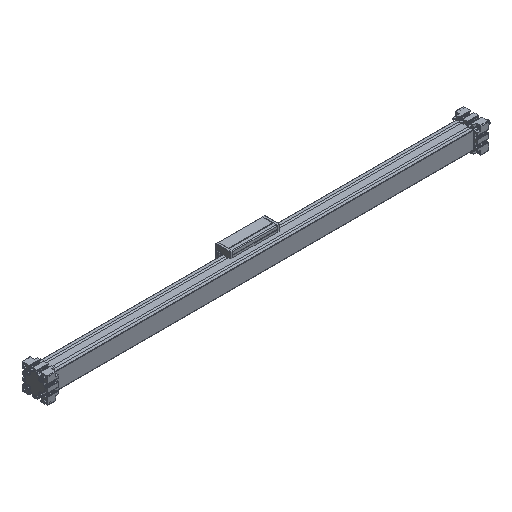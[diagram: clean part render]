
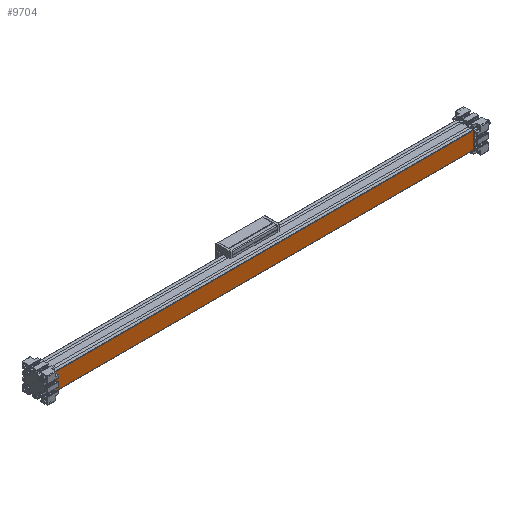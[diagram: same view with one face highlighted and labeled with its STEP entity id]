
A CAD part, isometric view. The second image highlights one B-rep face of the part: STEP entity #9704.
In plain terms, the highlighted planar face has unit normal (0, -1, 0).
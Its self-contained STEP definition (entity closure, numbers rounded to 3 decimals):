
#773 = LINE ( 'NONE', #8340, #12802 ) ;
#953 = CARTESIAN_POINT ( 'NONE',  ( 948., -20., -19. ) ) ;
#1021 = VERTEX_POINT ( 'NONE', #20662 ) ;
#2493 = VECTOR ( 'NONE', #24213, 1000. ) ;
#2952 = VERTEX_POINT ( 'NONE', #4799 ) ;
#3909 = ORIENTED_EDGE ( 'NONE', *, *, #19730, .T. ) ;
#4795 = ORIENTED_EDGE ( 'NONE', *, *, #29402, .F. ) ;
#4799 = CARTESIAN_POINT ( 'NONE',  ( 948., -20., -19. ) ) ;
#5355 = VECTOR ( 'NONE', #27388, 1000. ) ;
#5374 = VERTEX_POINT ( 'NONE', #15533 ) ;
#7145 = VERTEX_POINT ( 'NONE', #12570 ) ;
#7941 = EDGE_CURVE ( 'NONE', #5374, #2952, #773, .T. ) ;
#7954 = ORIENTED_EDGE ( 'NONE', *, *, #9847, .T. ) ;
#8340 = CARTESIAN_POINT ( 'NONE',  ( 948., -20., 19. ) ) ;
#8900 = LINE ( 'NONE', #12164, #2493 ) ;
#9704 = ADVANCED_FACE ( 'NONE', ( #12651 ), #26092, .F. ) ;
#9847 = EDGE_CURVE ( 'NONE', #7145, #1021, #8900, .T. ) ;
#9898 = LINE ( 'NONE', #24845, #29015 ) ;
#10495 = DIRECTION ( 'NONE',  ( -1., 0., 0. ) ) ;
#11700 = LINE ( 'NONE', #953, #5355 ) ;
#12164 = CARTESIAN_POINT ( 'NONE',  ( 0., -20., 19. ) ) ;
#12570 = CARTESIAN_POINT ( 'NONE',  ( 0., -20., 19. ) ) ;
#12651 = FACE_OUTER_BOUND ( 'NONE', #12860, .T. ) ;
#12802 = VECTOR ( 'NONE', #27512, 1000. ) ;
#12860 = EDGE_LOOP ( 'NONE', ( #7954, #4795, #17400, #3909 ) ) ;
#14152 = DIRECTION ( 'NONE',  ( 0., 1., 0. ) ) ;
#14213 = AXIS2_PLACEMENT_3D ( 'NONE', #23681, #14152, #30874 ) ;
#15533 = CARTESIAN_POINT ( 'NONE',  ( 948., -20., 19. ) ) ;
#17400 = ORIENTED_EDGE ( 'NONE', *, *, #7941, .F. ) ;
#19730 = EDGE_CURVE ( 'NONE', #5374, #7145, #9898, .T. ) ;
#20662 = CARTESIAN_POINT ( 'NONE',  ( 0., -20., -19. ) ) ;
#23681 = CARTESIAN_POINT ( 'NONE',  ( 948., -20., 19. ) ) ;
#24213 = DIRECTION ( 'NONE',  ( 0., 0., -1. ) ) ;
#24845 = CARTESIAN_POINT ( 'NONE',  ( 948., -20., 19. ) ) ;
#26092 = PLANE ( 'NONE',  #14213 ) ;
#27388 = DIRECTION ( 'NONE',  ( -1., 0., 0. ) ) ;
#27512 = DIRECTION ( 'NONE',  ( 0., 0., -1. ) ) ;
#29015 = VECTOR ( 'NONE', #10495, 1000. ) ;
#29402 = EDGE_CURVE ( 'NONE', #2952, #1021, #11700, .T. ) ;
#30874 = DIRECTION ( 'NONE',  ( 0., 0., 1. ) ) ;
